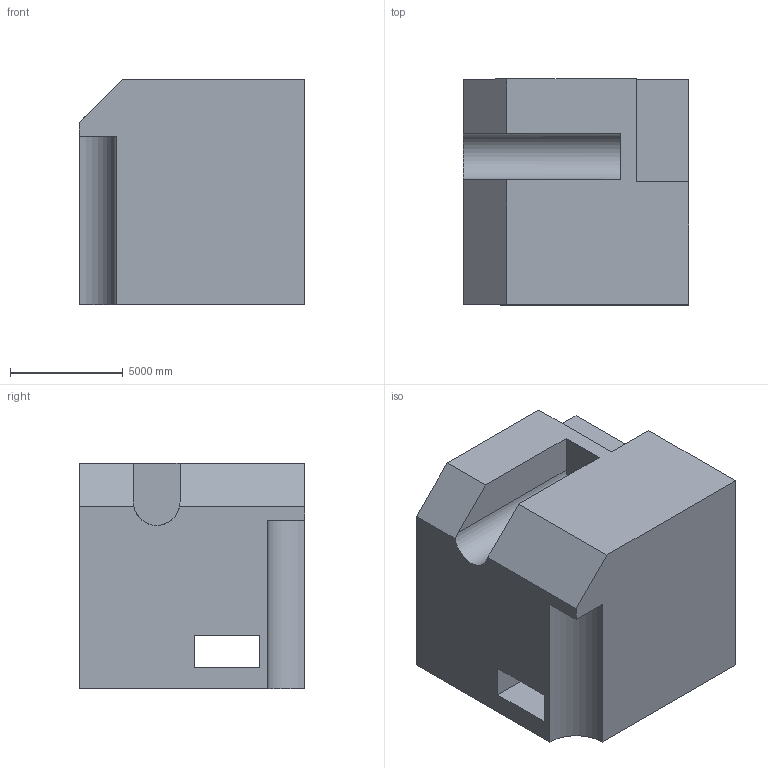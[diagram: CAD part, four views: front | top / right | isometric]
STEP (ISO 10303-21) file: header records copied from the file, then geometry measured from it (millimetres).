
FILE_DESCRIPTION (( 'STEP AP203' ), '1' );
FILE_NAME ('477.STEP', '2022-07-29T11:26:20', ( 'user' ), ( '' ), 'SwSTEP 2.0', 'SolidWorks 2021', '' );
FILE_SCHEMA (( 'CONFIG_CONTROL_DESIGN' ));
Length unit declared in the file: centimetre
Products named in the file (1): 477
Bounding box: 10000 x 10000 x 10000 mm (x, y, z)
Volume: 875790277679.5 mm3; surface area: 688947531.3 mm2
Topology: 1 solids, 1 shells, 21 faces, 57 edges, 38 vertices
Faces by surface type: plane 19, cylinder 2
Entity records: 736 total; most frequent: CARTESIAN_POINT 123, ORIENTED_EDGE 114, DIRECTION 103, EDGE_CURVE 57, VECTOR 51, LINE 51, VERTEX_POINT 38, AXIS2_PLACEMENT_3D 26
